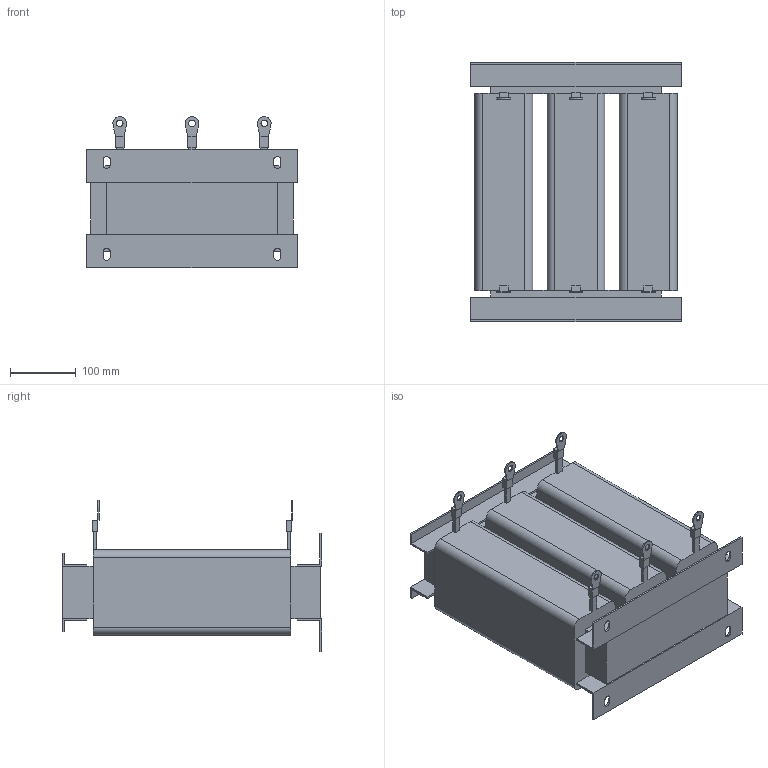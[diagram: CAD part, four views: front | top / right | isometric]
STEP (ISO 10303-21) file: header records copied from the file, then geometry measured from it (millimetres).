
FILE_DESCRIPTION(/* description */ (''),/* implementation_level */ '2;1');
FILE_NAME(/* name */ 'ACO-0121-T6-4.stp',/* time_stamp */ '2025-01-23T16:16:57+04:00',/* author */ ('Александр (огранич)'),/* organization */ (''),/* preprocessor_version */ 'ST-DEVELOPER v19.2',/* originating_system */ 'Autodesk Inventor 2024',/* authorisation */ '');
FILE_SCHEMA (('AUTOMOTIVE_DESIGN { 1 0 10303 214 3 1 1 }'));
Length unit declared in the file: millimetre
Products named in the file (1): ACO-0015-T4-4
Bounding box: 320 x 395 x 229.96 mm (x, y, z)
Volume: 12386034.4 mm3; surface area: 646487.3 mm2
Topology: 7 solids, 7 shells, 190 faces, 498 edges, 324 vertices
Faces by surface type: plane 158, cylinder 32
Full cylindrical faces by diameter (mm): 10 x6
Entity records: 5839 total; most frequent: CARTESIAN_POINT 1013, ORIENTED_EDGE 996, DIRECTION 944, EDGE_CURVE 498, LINE 434, VECTOR 434, VERTEX_POINT 324, AXIS2_PLACEMENT_3D 255
